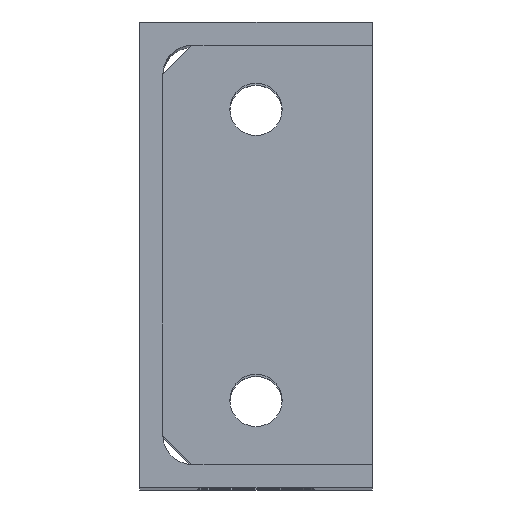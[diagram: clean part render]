
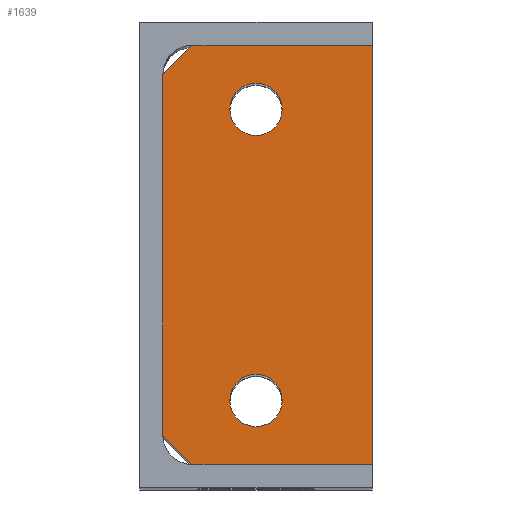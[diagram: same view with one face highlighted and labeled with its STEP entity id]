
A CAD part, top view. The second image highlights one B-rep face of the part: STEP entity #1639.
In plain terms, the highlighted planar face has unit normal (0, 0, 1).
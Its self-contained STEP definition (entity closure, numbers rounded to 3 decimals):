
#1 = VERTEX_POINT ( 'NONE', #1252 ) ;
#5 = FACE_BOUND ( 'NONE', #2495, .T. ) ;
#31 = DIRECTION ( 'NONE',  ( 0., -1., 0. ) ) ;
#86 = AXIS2_PLACEMENT_3D ( 'NONE', #1128, #1752, #2123 ) ;
#102 = ORIENTED_EDGE ( 'NONE', *, *, #689, .T. ) ;
#121 = DIRECTION ( 'NONE',  ( 0., 1., 0. ) ) ;
#127 = DIRECTION ( 'NONE',  ( -0.707, -0.707, 0. ) ) ;
#164 = CARTESIAN_POINT ( 'NONE',  ( 67., 36., 5. ) ) ;
#193 = EDGE_CURVE ( 'NONE', #1448, #867, #942, .T. ) ;
#198 = DIRECTION ( 'NONE',  ( -1., 0., 0. ) ) ;
#200 = PLANE ( 'NONE',  #1621 ) ;
#220 = DIRECTION ( 'NONE',  ( 1., 0., 0. ) ) ;
#225 = CARTESIAN_POINT ( 'NONE',  ( 72., 0., 5. ) ) ;
#248 = VERTEX_POINT ( 'NONE', #356 ) ;
#279 = CARTESIAN_POINT ( 'NONE',  ( 0., 0., 5. ) ) ;
#304 = EDGE_LOOP ( 'NONE', ( #2184, #373 ) ) ;
#309 = AXIS2_PLACEMENT_3D ( 'NONE', #372, #1591, #220 ) ;
#356 = CARTESIAN_POINT ( 'NONE',  ( 0., 0., 5. ) ) ;
#370 = AXIS2_PLACEMENT_3D ( 'NONE', #2441, #1053, #1824 ) ;
#372 = CARTESIAN_POINT ( 'NONE',  ( 61., 20., 5. ) ) ;
#373 = ORIENTED_EDGE ( 'NONE', *, *, #2208, .F. ) ;
#522 = LINE ( 'NONE', #1306, #1693 ) ;
#531 = EDGE_CURVE ( 'NONE', #2212, #613, #1736, .T. ) ;
#613 = VERTEX_POINT ( 'NONE', #164 ) ;
#617 = VECTOR ( 'NONE', #127, 1000. ) ;
#660 = ORIENTED_EDGE ( 'NONE', *, *, #1116, .T. ) ;
#689 = EDGE_CURVE ( 'NONE', #248, #1048, #2389, .T. ) ;
#709 = VECTOR ( 'NONE', #31, 1000. ) ;
#726 = CARTESIAN_POINT ( 'NONE',  ( 5., 36., 5. ) ) ;
#740 = ORIENTED_EDGE ( 'NONE', *, *, #531, .T. ) ;
#759 = ORIENTED_EDGE ( 'NONE', *, *, #1540, .T. ) ;
#768 = EDGE_CURVE ( 'NONE', #2042, #1, #1271, .T. ) ;
#775 = FACE_BOUND ( 'NONE', #304, .T. ) ;
#836 = EDGE_CURVE ( 'NONE', #2151, #2135, #1400, .T. ) ;
#859 = CARTESIAN_POINT ( 'NONE',  ( 6.5, 20., 5. ) ) ;
#867 = VERTEX_POINT ( 'NONE', #859 ) ;
#942 = CIRCLE ( 'NONE', #86, 4.5 ) ;
#977 = CARTESIAN_POINT ( 'NONE',  ( 65.5, 20., 5. ) ) ;
#983 = DIRECTION ( 'NONE',  ( 0., 0., -1. ) ) ;
#1024 = DIRECTION ( 'NONE',  ( 1., 0., 0. ) ) ;
#1048 = VERTEX_POINT ( 'NONE', #225 ) ;
#1053 = DIRECTION ( 'NONE',  ( 0., 0., 1. ) ) ;
#1066 = ORIENTED_EDGE ( 'NONE', *, *, #2469, .T. ) ;
#1076 = VECTOR ( 'NONE', #198, 1000. ) ;
#1116 = EDGE_CURVE ( 'NONE', #613, #2042, #1987, .T. ) ;
#1128 = CARTESIAN_POINT ( 'NONE',  ( 11., 20., 5. ) ) ;
#1179 = FACE_OUTER_BOUND ( 'NONE', #2447, .T. ) ;
#1183 = CARTESIAN_POINT ( 'NONE',  ( 72., 31., 5. ) ) ;
#1234 = DIRECTION ( 'NONE',  ( 1., 0., 0. ) ) ;
#1252 = CARTESIAN_POINT ( 'NONE',  ( 0., 31., 5. ) ) ;
#1271 = LINE ( 'NONE', #2450, #617 ) ;
#1306 = CARTESIAN_POINT ( 'NONE',  ( 72., 0., 5. ) ) ;
#1330 = DIRECTION ( 'NONE',  ( -0.707, 0.707, 0. ) ) ;
#1384 = CARTESIAN_POINT ( 'NONE',  ( 0., 0., 5. ) ) ;
#1400 = CIRCLE ( 'NONE', #370, 4.5 ) ;
#1448 = VERTEX_POINT ( 'NONE', #1608 ) ;
#1540 = EDGE_CURVE ( 'NONE', #1048, #2212, #522, .T. ) ;
#1566 = CARTESIAN_POINT ( 'NONE',  ( 0., 0., 5. ) ) ;
#1571 = ORIENTED_EDGE ( 'NONE', *, *, #1768, .F. ) ;
#1591 = DIRECTION ( 'NONE',  ( 0., 0., 1. ) ) ;
#1608 = CARTESIAN_POINT ( 'NONE',  ( 15.5, 20., 5. ) ) ;
#1621 = AXIS2_PLACEMENT_3D ( 'NONE', #1566, #983, #2340 ) ;
#1639 = ADVANCED_FACE ( 'NONE', ( #5, #775, #1179 ), #200, .F. ) ;
#1662 = CIRCLE ( 'NONE', #1694, 4.5 ) ;
#1676 = VECTOR ( 'NONE', #1330, 1000. ) ;
#1693 = VECTOR ( 'NONE', #121, 1000. ) ;
#1694 = AXIS2_PLACEMENT_3D ( 'NONE', #2417, #2183, #1234 ) ;
#1716 = VECTOR ( 'NONE', #1024, 1000. ) ;
#1731 = ORIENTED_EDGE ( 'NONE', *, *, #768, .T. ) ;
#1736 = LINE ( 'NONE', #2523, #1676 ) ;
#1744 = CARTESIAN_POINT ( 'NONE',  ( 56.5, 20., 5. ) ) ;
#1752 = DIRECTION ( 'NONE',  ( 0., 0., 1. ) ) ;
#1758 = CARTESIAN_POINT ( 'NONE',  ( 0., 36., 5. ) ) ;
#1768 = EDGE_CURVE ( 'NONE', #867, #1448, #1662, .T. ) ;
#1824 = DIRECTION ( 'NONE',  ( 1., 0., 0. ) ) ;
#1939 = CIRCLE ( 'NONE', #309, 4.5 ) ;
#1987 = LINE ( 'NONE', #1758, #1076 ) ;
#2042 = VERTEX_POINT ( 'NONE', #726 ) ;
#2123 = DIRECTION ( 'NONE',  ( 1., 0., 0. ) ) ;
#2135 = VERTEX_POINT ( 'NONE', #1744 ) ;
#2151 = VERTEX_POINT ( 'NONE', #977 ) ;
#2183 = DIRECTION ( 'NONE',  ( 0., 0., 1. ) ) ;
#2184 = ORIENTED_EDGE ( 'NONE', *, *, #836, .F. ) ;
#2208 = EDGE_CURVE ( 'NONE', #2135, #2151, #1939, .T. ) ;
#2212 = VERTEX_POINT ( 'NONE', #1183 ) ;
#2340 = DIRECTION ( 'NONE',  ( -1., 0., 0. ) ) ;
#2388 = LINE ( 'NONE', #279, #709 ) ;
#2389 = LINE ( 'NONE', #1384, #1716 ) ;
#2400 = ORIENTED_EDGE ( 'NONE', *, *, #193, .F. ) ;
#2417 = CARTESIAN_POINT ( 'NONE',  ( 11., 20., 5. ) ) ;
#2441 = CARTESIAN_POINT ( 'NONE',  ( 61., 20., 5. ) ) ;
#2447 = EDGE_LOOP ( 'NONE', ( #759, #740, #660, #1731, #1066, #102 ) ) ;
#2450 = CARTESIAN_POINT ( 'NONE',  ( 0., 31., 5. ) ) ;
#2469 = EDGE_CURVE ( 'NONE', #1, #248, #2388, .T. ) ;
#2495 = EDGE_LOOP ( 'NONE', ( #2400, #1571 ) ) ;
#2523 = CARTESIAN_POINT ( 'NONE',  ( 67., 36., 5. ) ) ;
